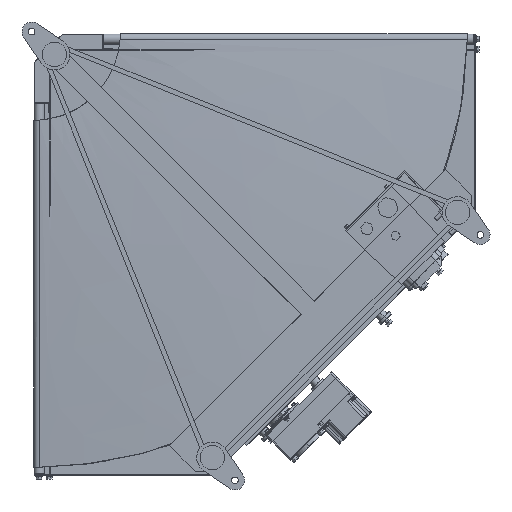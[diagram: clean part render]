
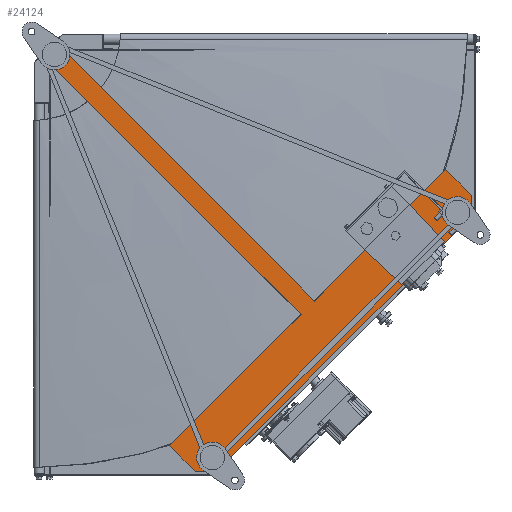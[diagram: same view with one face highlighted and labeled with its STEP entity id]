
A CAD part, front view. The second image highlights one B-rep face of the part: STEP entity #24124.
In plain terms, the highlighted planar face has unit normal (0, -1, 0).
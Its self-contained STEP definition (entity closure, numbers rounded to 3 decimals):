
#679 = LINE ( 'NONE', #18385, #25933 ) ;
#2434 = CARTESIAN_POINT ( 'NONE',  ( 315.723, -167.5, -856.66 ) ) ;
#2464 = LINE ( 'NONE', #31994, #44933 ) ;
#4792 = VERTEX_POINT ( 'NONE', #16364 ) ;
#5074 = EDGE_LOOP ( 'NONE', ( #26371, #26495, #26094, #18445, #20088, #37641, #7498, #35996, #40605, #9285 ) ) ;
#5289 = EDGE_CURVE ( 'NONE', #42310, #19744, #38503, .T. ) ;
#6353 = EDGE_CURVE ( 'NONE', #4792, #12891, #13780, .T. ) ;
#6591 = CARTESIAN_POINT ( 'NONE',  ( 550.129, -167.5, -523.259 ) ) ;
#6721 = CARTESIAN_POINT ( 'NONE',  ( 42.073, -167.5, -15.203 ) ) ;
#7498 = ORIENTED_EDGE ( 'NONE', *, *, #9177, .F. ) ;
#7751 = DIRECTION ( 'NONE',  ( 0.707, 0., 0.707 ) ) ;
#8207 = CARTESIAN_POINT ( 'NONE',  ( 807.162, -167.5, -266.226 ) ) ;
#8461 = DIRECTION ( 'NONE',  ( 0.707, 0., -0.707 ) ) ;
#9177 = EDGE_CURVE ( 'NONE', #23879, #42310, #21432, .T. ) ;
#9285 = ORIENTED_EDGE ( 'NONE', *, *, #6353, .F. ) ;
#10406 = CARTESIAN_POINT ( 'NONE',  ( 42.073, -167.5, -15.203 ) ) ;
#10424 = EDGE_CURVE ( 'NONE', #41228, #16553, #41950, .T. ) ;
#10426 = EDGE_CURVE ( 'NONE', #40988, #41228, #679, .T. ) ;
#10574 = CARTESIAN_POINT ( 'NONE',  ( 15.203, -167.5, -42.073 ) ) ;
#12785 = EDGE_CURVE ( 'NONE', #19744, #40988, #37698, .T. ) ;
#12891 = VERTEX_POINT ( 'NONE', #6721 ) ;
#13322 = EDGE_CURVE ( 'NONE', #12891, #24195, #25071, .T. ) ;
#13780 = LINE ( 'NONE', #45054, #42430 ) ;
#14258 = DIRECTION ( 'NONE',  ( 0., -1., 0. ) ) ;
#15540 = DIRECTION ( 'NONE',  ( 0.707, 0., 0.707 ) ) ;
#16364 = CARTESIAN_POINT ( 'NONE',  ( 15.203, -167.5, -42.073 ) ) ;
#16475 = VECTOR ( 'NONE', #7751, 1000. ) ;
#16553 = VERTEX_POINT ( 'NONE', #24904 ) ;
#17528 = DIRECTION ( 'NONE',  ( -0.707, 0., -0.707 ) ) ;
#17680 = DIRECTION ( 'NONE',  ( 0.707, 0., 0.707 ) ) ;
#18385 = CARTESIAN_POINT ( 'NONE',  ( 315.723, -167.5, -856.66 ) ) ;
#18445 = ORIENTED_EDGE ( 'NONE', *, *, #10426, .F. ) ;
#19744 = VERTEX_POINT ( 'NONE', #34706 ) ;
#20088 = ORIENTED_EDGE ( 'NONE', *, *, #12785, .F. ) ;
#21432 = LINE ( 'NONE', #29994, #26070 ) ;
#21632 = PLANE ( 'NONE',  #47296 ) ;
#22149 = DIRECTION ( 'NONE',  ( -0.707, 0., 0.707 ) ) ;
#23311 = CARTESIAN_POINT ( 'NONE',  ( 358.15, -167.5, -856.66 ) ) ;
#23879 = VERTEX_POINT ( 'NONE', #8207 ) ;
#24124 = ADVANCED_FACE ( 'NONE', ( #29192 ), #21632, .T. ) ;
#24195 = VERTEX_POINT ( 'NONE', #6591 ) ;
#24681 = CARTESIAN_POINT ( 'NONE',  ( 266.226, -167.5, -807.162 ) ) ;
#24904 = CARTESIAN_POINT ( 'NONE',  ( 266.226, -167.5, -807.162 ) ) ;
#25060 = CARTESIAN_POINT ( 'NONE',  ( 358.15, -167.5, -856.66 ) ) ;
#25071 = LINE ( 'NONE', #10406, #39372 ) ;
#25933 = VECTOR ( 'NONE', #32673, 1000. ) ;
#25960 = VECTOR ( 'NONE', #31858, 1000. ) ;
#26070 = VECTOR ( 'NONE', #8461, 1000. ) ;
#26094 = ORIENTED_EDGE ( 'NONE', *, *, #10424, .F. ) ;
#26371 = ORIENTED_EDGE ( 'NONE', *, *, #34563, .F. ) ;
#26495 = ORIENTED_EDGE ( 'NONE', *, *, #33632, .F. ) ;
#29042 = DIRECTION ( 'NONE',  ( 0., 0., -1. ) ) ;
#29064 = DIRECTION ( 'NONE',  ( 0.707, 0., -0.707 ) ) ;
#29192 = FACE_OUTER_BOUND ( 'NONE', #5074, .T. ) ;
#29298 = EDGE_CURVE ( 'NONE', #24195, #23879, #2464, .T. ) ;
#29994 = CARTESIAN_POINT ( 'NONE',  ( 807.162, -167.5, -266.226 ) ) ;
#31858 = DIRECTION ( 'NONE',  ( 0., 0., -1. ) ) ;
#31994 = CARTESIAN_POINT ( 'NONE',  ( 266.226, -167.5, -807.162 ) ) ;
#32298 = CARTESIAN_POINT ( 'NONE',  ( 856.66, -167.5, -315.723 ) ) ;
#32673 = DIRECTION ( 'NONE',  ( -1., 0., 0. ) ) ;
#33632 = EDGE_CURVE ( 'NONE', #16553, #42240, #37639, .T. ) ;
#34563 = EDGE_CURVE ( 'NONE', #42240, #4792, #45055, .T. ) ;
#34706 = CARTESIAN_POINT ( 'NONE',  ( 856.66, -167.5, -358.15 ) ) ;
#35323 = CARTESIAN_POINT ( 'NONE',  ( 523.259, -167.5, -550.129 ) ) ;
#35496 = CARTESIAN_POINT ( 'NONE',  ( 856.66, -167.5, -358.15 ) ) ;
#35996 = ORIENTED_EDGE ( 'NONE', *, *, #29298, .F. ) ;
#36765 = VECTOR ( 'NONE', #46453, 1000. ) ;
#37639 = LINE ( 'NONE', #40746, #16475 ) ;
#37641 = ORIENTED_EDGE ( 'NONE', *, *, #5289, .F. ) ;
#37698 = LINE ( 'NONE', #25060, #47467 ) ;
#38503 = LINE ( 'NONE', #35496, #25960 ) ;
#39372 = VECTOR ( 'NONE', #29064, 1000. ) ;
#40605 = ORIENTED_EDGE ( 'NONE', *, *, #13322, .F. ) ;
#40746 = CARTESIAN_POINT ( 'NONE',  ( 266.226, -167.5, -807.162 ) ) ;
#40988 = VERTEX_POINT ( 'NONE', #23311 ) ;
#41228 = VERTEX_POINT ( 'NONE', #2434 ) ;
#41950 = LINE ( 'NONE', #24681, #36765 ) ;
#42240 = VERTEX_POINT ( 'NONE', #35323 ) ;
#42310 = VERTEX_POINT ( 'NONE', #32298 ) ;
#42430 = VECTOR ( 'NONE', #15540, 1000. ) ;
#44488 = VECTOR ( 'NONE', #22149, 1000. ) ;
#44933 = VECTOR ( 'NONE', #17680, 1000. ) ;
#45054 = CARTESIAN_POINT ( 'NONE',  ( 15.203, -167.5, -42.073 ) ) ;
#45055 = LINE ( 'NONE', #10574, #44488 ) ;
#46453 = DIRECTION ( 'NONE',  ( -0.707, 0., 0.707 ) ) ;
#47260 = CARTESIAN_POINT ( 'NONE',  ( 0., -167.5, 0. ) ) ;
#47296 = AXIS2_PLACEMENT_3D ( 'NONE', #47260, #14258, #29042 ) ;
#47467 = VECTOR ( 'NONE', #17528, 1000. ) ;
